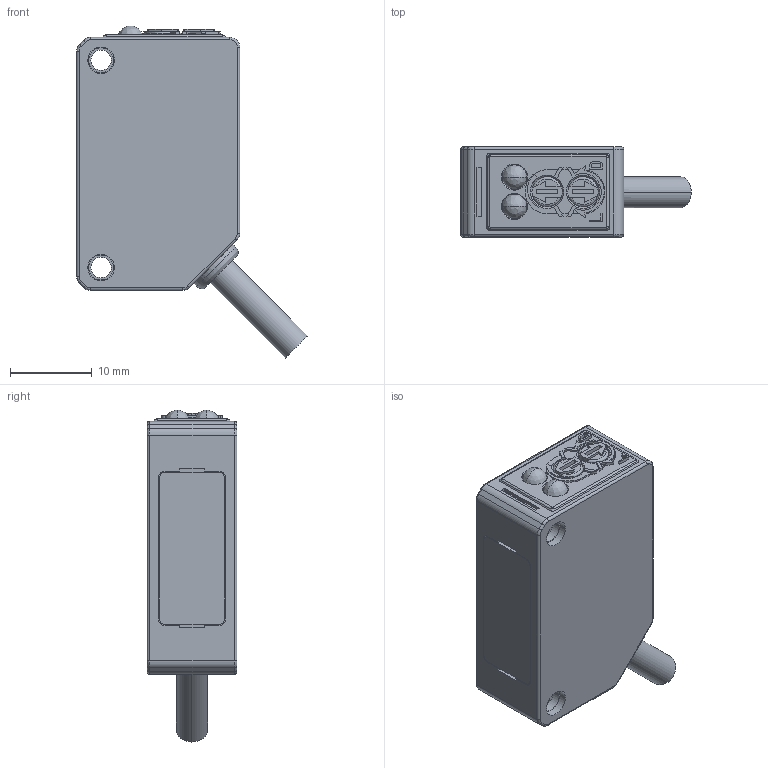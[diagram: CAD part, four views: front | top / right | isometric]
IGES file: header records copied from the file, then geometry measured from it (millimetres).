
Start section: Elysium IGES Interface
Global section: file name: 131H\\fadev.optexgroup.co.jp\技術情報\01_CAD\CAD_data\Horiike_fanas_kyoto\X166_W100-2_IO_LINK\外形寸法図\3D data\IGES\Z4_Cable_Type.igs; native system: CoCreate Modeling 16.50A  01-Dec-2009; preprocessor: CoCreate IGES_3D V2.2; author: Unknown; organization: Unknown; date: 20191004.142209; units: millimetre
Bounding box: 28.29 x 11 x 40.69 mm (x, y, z)
Volume: 6655.5 mm3; surface area: 2791.1 mm2
Topology: 1 solids, 1 shells, 257 faces, 654 edges, 416 vertices
Faces by surface type: bspline 257
